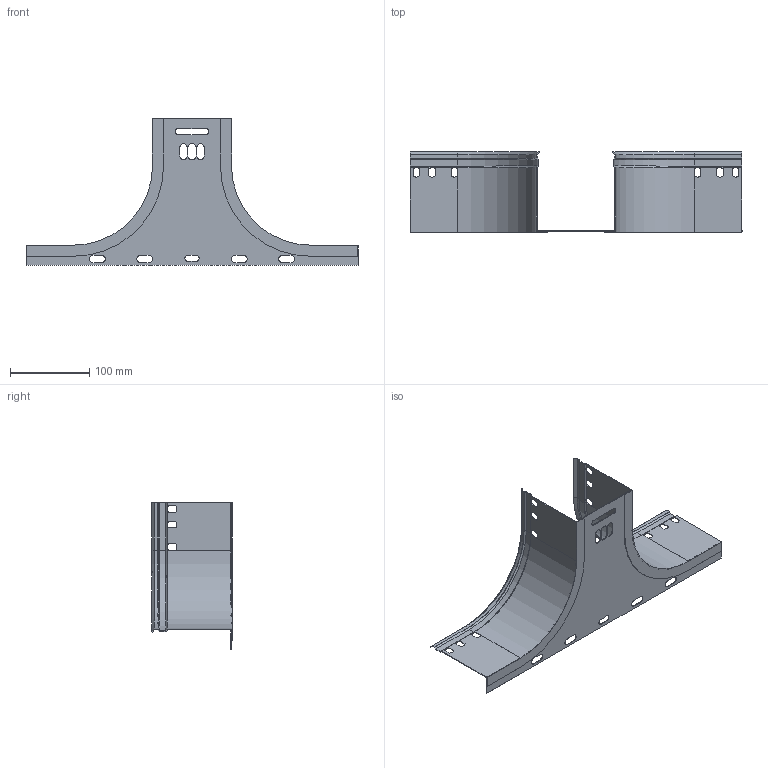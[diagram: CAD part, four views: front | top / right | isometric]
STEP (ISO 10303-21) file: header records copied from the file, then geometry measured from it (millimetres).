
FILE_DESCRIPTION (( 'STEP AP203' ), '1' );
FILE_NAME ('ERE_AS 100x100.step', '2023-07-27T18:50:32', ( '' ), ( '' ), 'SwSTEP 2.0', 'SolidWorks 2022', '' );
FILE_SCHEMA (( 'CONFIG_CONTROL_DESIGN' ));
Length unit declared in the file: millimetre
Products named in the file (3): ERE_LATERAL AS_100; ERE_AS 100x100; ERE_BASE AS_100
Assembly tree (3 placements, depth 2):
  ERE_AS 100x100
    ERE_BASE AS_100
    ERE_LATERAL AS_100  x2
Bounding box: 420 x 102 x 185.5 mm (x, y, z)
Volume: 87740.5 mm3; surface area: 190356.4 mm2
Topology: 3 solids, 3 shells, 206 faces, 588 edges, 364 vertices
Faces by surface type: plane 128, cylinder 64, cone 14
Entity records: 4603 total; most frequent: CARTESIAN_POINT 754, DIRECTION 746, ORIENTED_EDGE 744, EDGE_CURVE 372, LINE 262, VECTOR 262, AXIS2_PLACEMENT_3D 242, VERTEX_POINT 234
